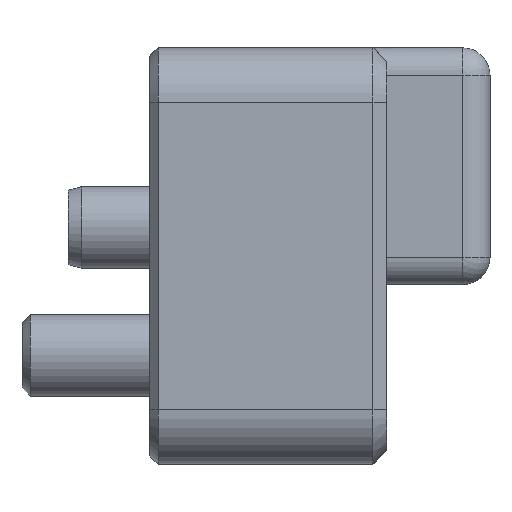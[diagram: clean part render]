
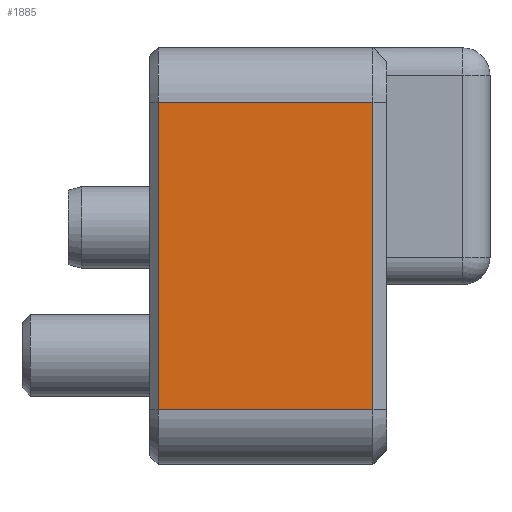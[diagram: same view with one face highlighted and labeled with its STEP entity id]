
A CAD part, left-side view. The second image highlights one B-rep face of the part: STEP entity #1885.
In plain terms, the highlighted planar face has unit normal (-1, 0, 0).
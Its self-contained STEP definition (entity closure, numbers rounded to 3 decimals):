
#106=PLANE('',#2088);
#212=FACE_OUTER_BOUND('',#337,.T.);
#337=EDGE_LOOP('',(#1495,#1496,#1497,#1498));
#437=LINE('',#2956,#584);
#464=LINE('',#3047,#611);
#504=LINE('',#3133,#651);
#505=LINE('',#3135,#652);
#584=VECTOR('',#2370,10.);
#611=VECTOR('',#2459,10.);
#651=VECTOR('',#2545,10.);
#652=VECTOR('',#2548,10.);
#837=VERTEX_POINT('',#2948);
#839=VERTEX_POINT('',#2954);
#869=VERTEX_POINT('',#3037);
#871=VERTEX_POINT('',#3043);
#1022=EDGE_CURVE('',#839,#837,#437,.T.);
#1066=EDGE_CURVE('',#869,#871,#464,.T.);
#1112=EDGE_CURVE('',#871,#839,#504,.T.);
#1113=EDGE_CURVE('',#837,#869,#505,.T.);
#1495=ORIENTED_EDGE('',*,*,#1022,.F.);
#1496=ORIENTED_EDGE('',*,*,#1112,.F.);
#1497=ORIENTED_EDGE('',*,*,#1066,.F.);
#1498=ORIENTED_EDGE('',*,*,#1113,.F.);
#1885=ADVANCED_FACE('',(#212),#106,.T.);
#2088=AXIS2_PLACEMENT_3D('',#3134,#2546,#2547);
#2370=DIRECTION('',(0.,0.,-1.));
#2459=DIRECTION('',(0.,0.,1.));
#2545=DIRECTION('',(0.,-1.,0.));
#2546=DIRECTION('center_axis',(-1.,0.,0.));
#2547=DIRECTION('ref_axis',(0.,-1.,0.));
#2548=DIRECTION('',(0.,1.,0.));
#2948=CARTESIAN_POINT('',(-16.,-3.7,2.));
#2954=CARTESIAN_POINT('',(-16.,-3.7,13.3));
#2956=CARTESIAN_POINT('',(-16.,-3.7,0.));
#3037=CARTESIAN_POINT('',(-16.,4.2,2.));
#3043=CARTESIAN_POINT('',(-16.,4.2,13.3));
#3047=CARTESIAN_POINT('',(-16.,4.2,0.));
#3133=CARTESIAN_POINT('',(-16.,1.378,13.3));
#3134=CARTESIAN_POINT('Origin',(-16.,4.5,0.));
#3135=CARTESIAN_POINT('',(-16.,1.378,2.));
